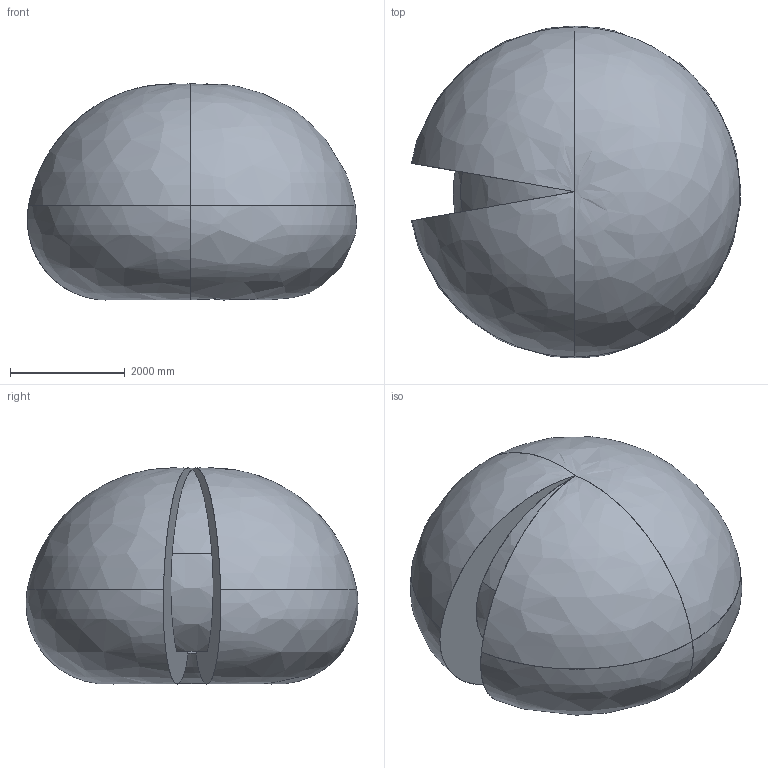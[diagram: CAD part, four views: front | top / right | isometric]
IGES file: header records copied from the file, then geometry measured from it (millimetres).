
Start section: SolidWorks IGES file using analytic representation for surfaces
Global section: file name: C:\DATA\SAP_DOC\LW\IRB 6730\IRB6730-MH3_240kg-290_OC_01_SW_J\Export\IRB6730-MH3_240kg-290_OC_01_IGES_J\IRB6730-MH3_240kg-290_OC_00_Working-space.igs; native system: SolidWorks 2024; preprocessor: SolidWorks 2024; author: SEJOVAS3; date: 260526.113544; units: millimetre
Bounding box: 5731.51 x 5778.17 x 3760.44 mm (x, y, z)
Surface area: 107472217.1 mm2 (no closed solid volume)
Topology: 0 solids, 0 shells, 18 faces, 424 edges, 416 vertices
Faces by surface type: bspline 18
